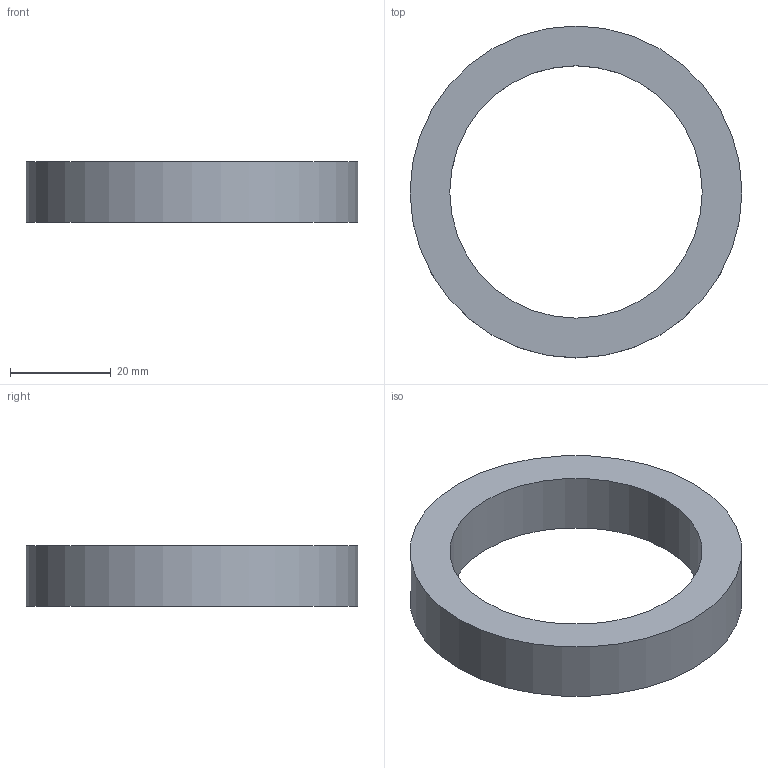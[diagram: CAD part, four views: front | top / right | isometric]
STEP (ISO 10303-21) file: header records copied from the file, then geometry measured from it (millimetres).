
FILE_DESCRIPTION(('Open CASCADE Model'),'2;1');
FILE_NAME('Open CASCADE Shape Model','2026-10-02T14:11:18',('Author'),( 'Open CASCADE'),'Open CASCADE STEP processor 8.0','build123d', 'Unknown');
FILE_SCHEMA(('AUTOMOTIVE_DESIGN { 1 0 10303 214 1 1 1 1 }'));
Length unit declared in the file: millimetre
Products named in the file (1): COMPOUND
Bounding box: 66 x 66 x 12 mm (x, y, z)
Volume: 17303.5 mm3; surface area: 7264.6 mm2
Topology: 1 solids, 1 shells, 4 faces, 6 edges, 4 vertices
Faces by surface type: cylinder 2, plane 2
Full cylindrical faces by diameter (mm): 50.2 x1, 66 x1
Entity records: 186 total; most frequent: DIRECTION 32, CARTESIAN_POINT 27, ORIENTED_EDGE 12, PCURVE 12, DEFINITIONAL_REPRESENTATION 12, LINE 10, VECTOR 10, AXIS2_PLACEMENT_3D 9
